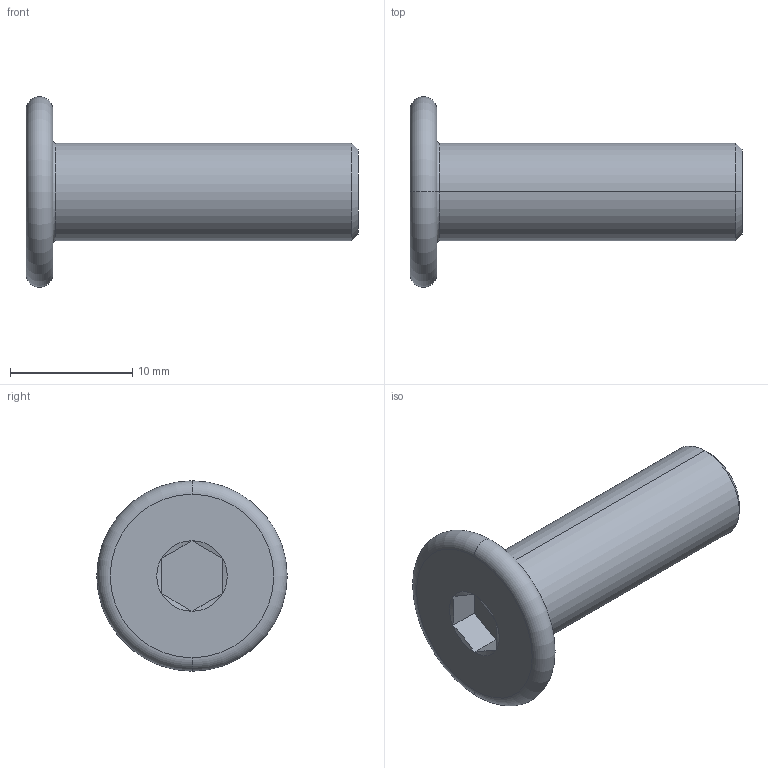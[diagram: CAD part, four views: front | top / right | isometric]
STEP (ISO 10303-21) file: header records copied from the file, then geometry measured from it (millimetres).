
FILE_DESCRIPTION (( 'STEP AP203' ), '1' );
FILE_NAME ('LGD-304M-M8x25.STEP', '2026-08-13T13:20:20', ( '' ), ( '' ), 'SwSTEP 2.0', 'SolidWorks 2020', '' );
FILE_SCHEMA (( 'CONFIG_CONTROL_DESIGN' ));
Length unit declared in the file: millimetre
Products named in the file (1): LGD-304M-M8x25
Bounding box: 27.2 x 15.6 x 15.6 mm (x, y, z)
Volume: 1595.4 mm3; surface area: 1103.5 mm2
Topology: 1 solids, 1 shells, 24 faces, 44 edges, 24 vertices
Faces by surface type: plane 10, cone 8, torus 4, cylinder 2
Entity records: 673 total; most frequent: CARTESIAN_POINT 119, DIRECTION 110, ORIENTED_EDGE 88, AXIS2_PLACEMENT_3D 47, EDGE_CURVE 44, EDGE_LOOP 26, VERTEX_POINT 24, FACE_OUTER_BOUND 24
